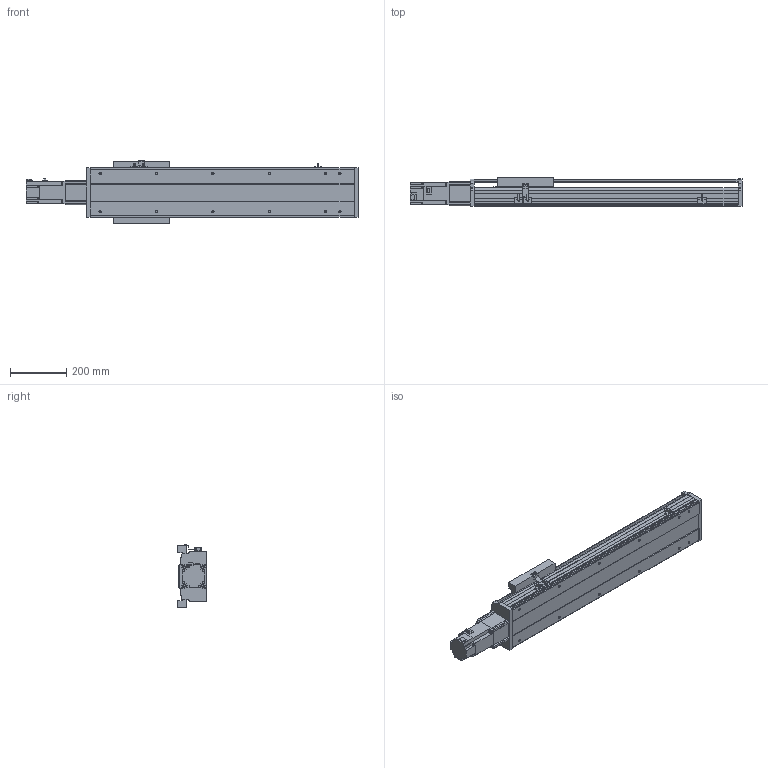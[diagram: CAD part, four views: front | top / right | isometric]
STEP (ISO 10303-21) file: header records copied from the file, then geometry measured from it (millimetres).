
FILE_DESCRIPTION(/* description */ ('STEP AP214'),/* implementation_level */ '2;1');
FILE_NAME(/* name */ 'PSS200-L10-S600-BC-T75-C1-N(0)',/* time_stamp */ '2022-06-06T04:34:08+02:00',/* author */ ('License CC BY-ND 4.0'),/* organization */ ('CADENAS'),/* preprocessor_version */ 'ST-DEVELOPER v18.102',/* originating_system */ 'PARTsolutions',/* authorisation */ ' ');
FILE_SCHEMA (('AUTOMOTIVE_DESIGN {1 0 10303 214 3 1 1}'));
Length unit declared in the file: millimetre
Products named in the file (8): PSS200-L10-S600-BC-T75-C1-N(0); PSS200-S600-BC-N_S; T75-p1; PSS200BC-N_h; PSS200-N_sensor; PSS200-BC-C1-N_sl; PSS200-N_Q; PSS200-S600-BC-C1-N_body
Assembly tree (9 placements, depth 2):
  PSS200-L10-S600-BC-T75-C1-N(0)
    PSS200-S600-BC-N_S
    T75-p1
    PSS200BC-N_h
    PSS200-N_sensor  x3
    PSS200-BC-C1-N_sl
    PSS200-N_Q
    PSS200-S600-BC-C1-N_body
Bounding box: 1176.3 x 101.5 x 223.86 mm (x, y, z)
Volume: 6816862.2 mm3; surface area: 1653589.8 mm2
Topology: 9 solids, 9 shells, 577 faces, 1543 edges, 1024 vertices
Faces by surface type: plane 439, cylinder 118, cone 20
Full cylindrical faces by diameter (mm): 4 x2, 4.5 x4, 6 x11, 6.647 x16, 8 x8, 10 x6, 25 x1, 67 x1, 70 x1
Entity records: 16058 total; most frequent: CARTESIAN_POINT 2780, DIRECTION 2641, ORIENTED_EDGE 2630, EDGE_CURVE 1315, LINE 1051, VECTOR 1051, VERTEX_POINT 914, AXIS2_PLACEMENT_3D 795
